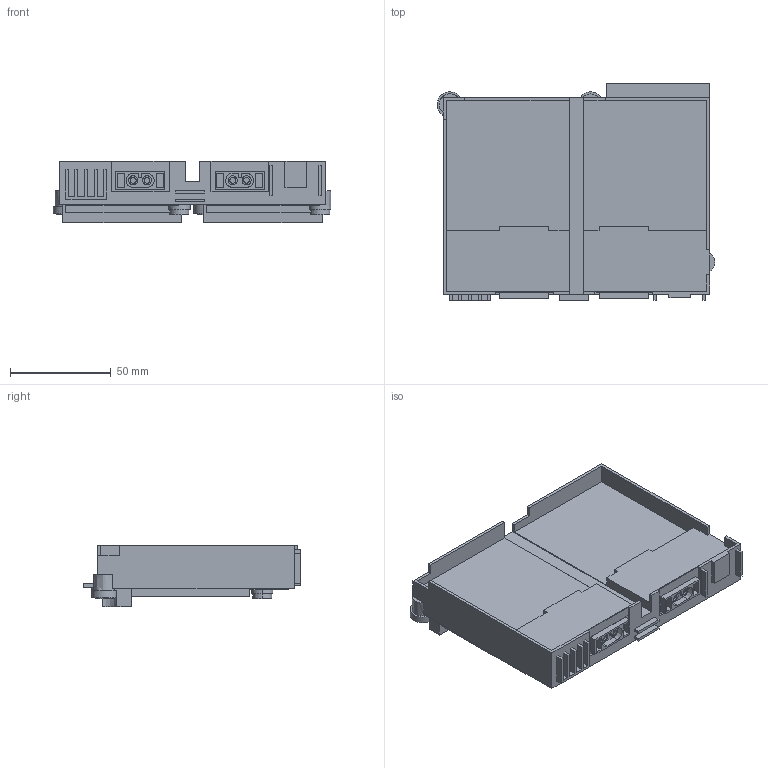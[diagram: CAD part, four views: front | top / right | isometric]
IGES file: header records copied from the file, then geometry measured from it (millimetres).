
Start section:  PTC IGES file: gt15_j71lp23_25.igs
Global section: file name: gt15_j71lp23_25.igs; native system: Pro/ENGINEER by Parametric Technology Corporation; preprocessor: 2006510; author: QR87550; organization: Unknown; date: 20100205.103829; units: millimetre
Bounding box: 138.1 x 107.8 x 30.6 mm (x, y, z)
Volume: 225576.6 mm3; surface area: 46831.1 mm2
Topology: 1 solids, 1 shells, 277 faces, 734 edges, 488 vertices
Faces by surface type: bspline 277
